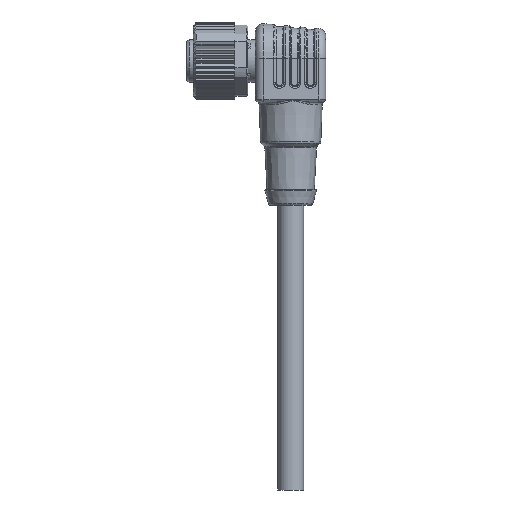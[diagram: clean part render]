
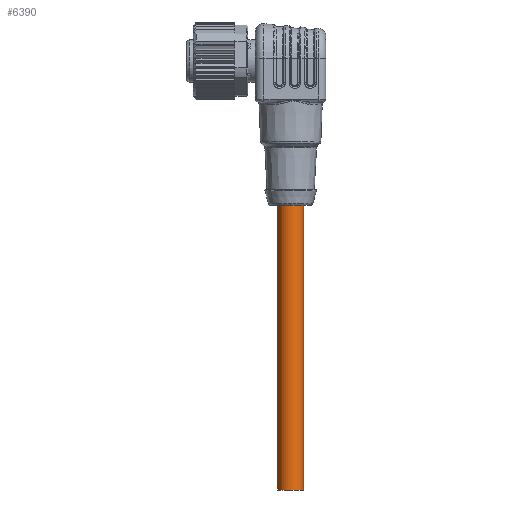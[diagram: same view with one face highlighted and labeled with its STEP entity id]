
A CAD part, front view. The second image highlights one B-rep face of the part: STEP entity #6390.
In plain terms, the highlighted cylindrical face has radius 2.5 mm (diameter 5 mm), a partial arc.
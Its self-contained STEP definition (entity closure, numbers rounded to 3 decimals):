
#495 = VERTEX_POINT ( 'NONE', #4463 ) ;
#2620 = CARTESIAN_POINT ( 'NONE',  ( 5.8, 0., -27.95 ) ) ;
#3687 = FACE_OUTER_BOUND ( 'NONE', #30929, .T. ) ;
#4463 = CARTESIAN_POINT ( 'NONE',  ( 5.8, 0., -82.95 ) ) ;
#4960 = CYLINDRICAL_SURFACE ( 'NONE', #30753, 2.5 ) ;
#5114 = ORIENTED_EDGE ( 'NONE', *, *, #28421, .T. ) ;
#5806 = DIRECTION ( 'NONE',  ( 1., 0., 0. ) ) ;
#6355 = LINE ( 'NONE', #6495, #36514 ) ;
#6390 = ADVANCED_FACE ( 'NONE', ( #3687 ), #4960, .T. ) ;
#6495 = CARTESIAN_POINT ( 'NONE',  ( 10.8, 0., -32.95 ) ) ;
#7217 = DIRECTION ( 'NONE',  ( 0., 0., -1. ) ) ;
#8355 = EDGE_CURVE ( 'NONE', #495, #13052, #22722, .T. ) ;
#8797 = CARTESIAN_POINT ( 'NONE',  ( 5.8, 0., -32.95 ) ) ;
#9379 = CIRCLE ( 'NONE', #42926, 2.5 ) ;
#10672 = CARTESIAN_POINT ( 'NONE',  ( 8.3, 0., -32.95 ) ) ;
#11377 = CARTESIAN_POINT ( 'NONE',  ( 8.3, 0., -27.95 ) ) ;
#13052 = VERTEX_POINT ( 'NONE', #19521 ) ;
#13380 = VERTEX_POINT ( 'NONE', #2620 ) ;
#15354 = DIRECTION ( 'NONE',  ( 0., 0., -1. ) ) ;
#17283 = VERTEX_POINT ( 'NONE', #34751 ) ;
#19329 = DIRECTION ( 'NONE',  ( -1., 0., 0. ) ) ;
#19521 = CARTESIAN_POINT ( 'NONE',  ( 10.8, 0., -82.95 ) ) ;
#20400 = EDGE_CURVE ( 'NONE', #17283, #13380, #9379, .T. ) ;
#20995 = ORIENTED_EDGE ( 'NONE', *, *, #41283, .F. ) ;
#21121 = DIRECTION ( 'NONE',  ( 0., 0., 1. ) ) ;
#21595 = LINE ( 'NONE', #8797, #27131 ) ;
#22722 = CIRCLE ( 'NONE', #26919, 2.5 ) ;
#26686 = DIRECTION ( 'NONE',  ( -1., 0., 0. ) ) ;
#26919 = AXIS2_PLACEMENT_3D ( 'NONE', #45209, #21121, #5806 ) ;
#27131 = VECTOR ( 'NONE', #28762, 1000. ) ;
#28421 = EDGE_CURVE ( 'NONE', #13380, #495, #21595, .T. ) ;
#28762 = DIRECTION ( 'NONE',  ( 0., 0., -1. ) ) ;
#30753 = AXIS2_PLACEMENT_3D ( 'NONE', #10672, #7217, #26686 ) ;
#30929 = EDGE_LOOP ( 'NONE', ( #20995, #31777, #5114, #48099 ) ) ;
#31777 = ORIENTED_EDGE ( 'NONE', *, *, #20400, .T. ) ;
#34751 = CARTESIAN_POINT ( 'NONE',  ( 10.8, 0., -27.95 ) ) ;
#36514 = VECTOR ( 'NONE', #42435, 1000. ) ;
#41283 = EDGE_CURVE ( 'NONE', #17283, #13052, #6355, .T. ) ;
#42435 = DIRECTION ( 'NONE',  ( 0., 0., -1. ) ) ;
#42926 = AXIS2_PLACEMENT_3D ( 'NONE', #11377, #15354, #19329 ) ;
#45209 = CARTESIAN_POINT ( 'NONE',  ( 8.3, 0., -82.95 ) ) ;
#48099 = ORIENTED_EDGE ( 'NONE', *, *, #8355, .T. ) ;
